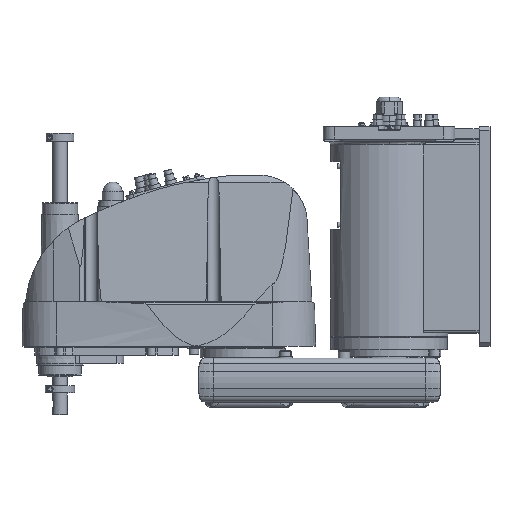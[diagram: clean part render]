
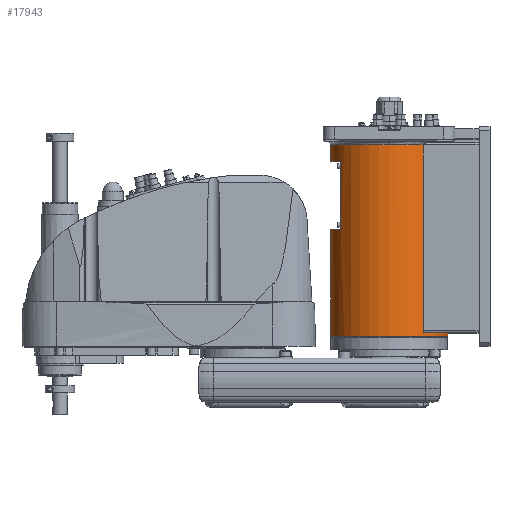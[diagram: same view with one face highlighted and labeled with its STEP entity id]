
A CAD part, top view. The second image highlights one B-rep face of the part: STEP entity #17943.
In plain terms, the highlighted cylindrical face has radius 80 mm (diameter 160 mm), a partial arc.
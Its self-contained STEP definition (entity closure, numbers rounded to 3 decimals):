
#8871 = VERTEX_POINT( '', #25531 );
#9305 = VERTEX_POINT( '', #26011 );
#10139 = EDGE_CURVE( '', #17783, #16687, #26924, .T. );
#10681 = EDGE_CURVE( '', #18551, #9305, #27530, .T. );
#11325 = EDGE_CURVE( '', #18063, #21733, #28262, .T. );
#11709 = EDGE_CURVE( '', #16687, #19675, #28704, .T. );
#11987 = EDGE_CURVE( '', #16673, #23309, #29005, .T. );
#15599 = VERTEX_POINT( '', #33001 );
#16673 = VERTEX_POINT( '', #34199 );
#16687 = VERTEX_POINT( '', #34213 );
#17309 = EDGE_CURVE( '', #20251, #15599, #34897, .T. );
#17783 = VERTEX_POINT( '', #35424 );
#17883 = EDGE_CURVE( '', #23309, #18063, #35538, .T. );
#17943 = ADVANCED_FACE( '', ( #35604 ), #35605, .T. );
#18063 = VERTEX_POINT( '', #35748 );
#18089 = EDGE_CURVE( '', #18551, #20251, #35775, .T. );
#18117 = EDGE_CURVE( '', #21733, #8871, #35805, .T. );
#18551 = VERTEX_POINT( '', #36293 );
#19675 = VERTEX_POINT( '', #37584 );
#19685 = EDGE_CURVE( '', #9305, #17783, #37594, .T. );
#20251 = VERTEX_POINT( '', #38227 );
#20839 = EDGE_CURVE( '', #19675, #16673, #38887, .T. );
#21733 = VERTEX_POINT( '', #39897 );
#23309 = VERTEX_POINT( '', #41640 );
#24299 = EDGE_CURVE( '', #8871, #15599, #42740, .T. );
#25531 = CARTESIAN_POINT( '', ( 46.637, 37.5, 65. ) );
#26011 = CARTESIAN_POINT( '', ( -80., 269., 0. ) );
#26924 = LINE( '', #46496, #46497 );
#27530 = LINE( '', #47467, #47468 );
#28262 = CIRCLE( '', #48575, 80. );
#28704 = CIRCLE( '', #49199, 80. );
#29005 = CIRCLE( '', #49680, 80. );
#33001 = CARTESIAN_POINT( '', ( 46.637, 291.5, 65. ) );
#34199 = CARTESIAN_POINT( '', ( -80., 30., 0. ) );
#34213 = CARTESIAN_POINT( '', ( -66., 176., 45.211 ) );
#34897 = CIRCLE( '', #59016, 80. );
#35424 = CARTESIAN_POINT( '', ( -66., 269., 45.211 ) );
#35538 = LINE( '', #60084, #60085 );
#35604 = FACE_OUTER_BOUND( '', #60185, .T. );
#35605 = CYLINDRICAL_SURFACE( '', #60186, 80. );
#35748 = CARTESIAN_POINT( '', ( 80., 34.5, 0. ) );
#35775 = CIRCLE( '', #60493, 80. );
#35805 = B_SPLINE_CURVE_WITH_KNOTS( '', 3, ( #60544, #60545, #60546, #60547, #60548, #60549, #60550, #60551, #60552, #60553, #60554, #60555, #60556, #60557, #60558, #60559 ), .UNSPECIFIED., .F., .F., ( 4, 2, 2, 2, 2, 2, 2, 4 ), ( -6.06, -5.11, -4.16, -2.26, -1.695, -1.13, -0.565, 0. ), .UNSPECIFIED. );
#36293 = CARTESIAN_POINT( '', ( -80., 291.5, 0. ) );
#37584 = CARTESIAN_POINT( '', ( -80., 176., 0. ) );
#37594 = CIRCLE( '', #63085, 80. );
#38227 = CARTESIAN_POINT( '', ( 0., 291.5, 80. ) );
#38887 = LINE( '', #65137, #65138 );
#39897 = CARTESIAN_POINT( '', ( 50.557, 34.5, 62. ) );
#41640 = CARTESIAN_POINT( '', ( 80., 30., 0. ) );
#42740 = LINE( '', #71064, #71065 );
#46496 = CARTESIAN_POINT( '', ( -66., 222.5, 45.211 ) );
#46497 = VECTOR( '', #74201, 1. );
#47467 = CARTESIAN_POINT( '', ( -80., 160.75, 0. ) );
#47468 = VECTOR( '', #74898, 1. );
#48575 = AXIS2_PLACEMENT_3D( '', #75835, #75836, #75837 );
#49199 = AXIS2_PLACEMENT_3D( '', #76408, #76409, #76410 );
#49680 = AXIS2_PLACEMENT_3D( '', #76734, #76735, #76736 );
#59016 = AXIS2_PLACEMENT_3D( '', #83321, #83322, #83323 );
#60084 = CARTESIAN_POINT( '', ( 80., 160.75, 0. ) );
#60085 = VECTOR( '', #84086, 1. );
#60185 = EDGE_LOOP( '', ( #84141, #84142, #84143, #84144, #84145, #84146, #84147, #84148, #84149, #84150, #84151, #84152 ) );
#60186 = AXIS2_PLACEMENT_3D( '', #84153, #84154, #84155 );
#60493 = AXIS2_PLACEMENT_3D( '', #84320, #84321, #84322 );
#60544 = CARTESIAN_POINT( '', ( 50.557, 34.5, 62. ) );
#60545 = CARTESIAN_POINT( '', ( 50.312, 34.5, 62.2 ) );
#60546 = CARTESIAN_POINT( '', ( 50.054, 34.52, 62.407 ) );
#60547 = CARTESIAN_POINT( '', ( 49.533, 34.607, 62.822 ) );
#60548 = CARTESIAN_POINT( '', ( 49.269, 34.674, 63.029 ) );
#60549 = CARTESIAN_POINT( '', ( 48.491, 34.945, 63.632 ) );
#60550 = CARTESIAN_POINT( '', ( 47.991, 35.221, 64.009 ) );
#60551 = CARTESIAN_POINT( '', ( 47.455, 35.701, 64.405 ) );
#60552 = CARTESIAN_POINT( '', ( 47.333, 35.827, 64.495 ) );
#60553 = CARTESIAN_POINT( '', ( 47.106, 36.105, 64.661 ) );
#60554 = CARTESIAN_POINT( '', ( 47.002, 36.258, 64.736 ) );
#60555 = CARTESIAN_POINT( '', ( 46.828, 36.585, 64.863 ) );
#60556 = CARTESIAN_POINT( '', ( 46.758, 36.761, 64.913 ) );
#60557 = CARTESIAN_POINT( '', ( 46.662, 37.124, 64.982 ) );
#60558 = CARTESIAN_POINT( '', ( 46.637, 37.312, 65. ) );
#60559 = CARTESIAN_POINT( '', ( 46.637, 37.5, 65. ) );
#63085 = AXIS2_PLACEMENT_3D( '', #86575, #86576, #86577 );
#65137 = CARTESIAN_POINT( '', ( -80., 160.75, 0. ) );
#65138 = VECTOR( '', #88097, 1. );
#71064 = CARTESIAN_POINT( '', ( 46.637, 164.5, 65. ) );
#71065 = VECTOR( '', #92484, 1. );
#74201 = DIRECTION( '', ( 0., -1., 0. ) );
#74898 = DIRECTION( '', ( 0., -1., 0. ) );
#75835 = CARTESIAN_POINT( '', ( 0., 34.5, 0. ) );
#75836 = DIRECTION( '', ( 0., -1., 0. ) );
#75837 = DIRECTION( '', ( 1., 0., 0. ) );
#76408 = CARTESIAN_POINT( '', ( 0., 176., 0. ) );
#76409 = DIRECTION( '', ( 0., -1., 0. ) );
#76410 = DIRECTION( '', ( 1., 0., 0. ) );
#76734 = CARTESIAN_POINT( '', ( 0., 30., 0. ) );
#76735 = DIRECTION( '', ( 0., 1., 0. ) );
#76736 = DIRECTION( '', ( 1., 0., 0. ) );
#83321 = CARTESIAN_POINT( '', ( 0., 291.5, 0. ) );
#83322 = DIRECTION( '', ( 0., 1., 0. ) );
#83323 = DIRECTION( '', ( 1., 0., 0. ) );
#84086 = DIRECTION( '', ( 0., 1., 0. ) );
#84141 = ORIENTED_EDGE( '', *, *, #17883, .T. );
#84142 = ORIENTED_EDGE( '', *, *, #11325, .T. );
#84143 = ORIENTED_EDGE( '', *, *, #18117, .T. );
#84144 = ORIENTED_EDGE( '', *, *, #24299, .T. );
#84145 = ORIENTED_EDGE( '', *, *, #17309, .F. );
#84146 = ORIENTED_EDGE( '', *, *, #18089, .F. );
#84147 = ORIENTED_EDGE( '', *, *, #10681, .T. );
#84148 = ORIENTED_EDGE( '', *, *, #19685, .T. );
#84149 = ORIENTED_EDGE( '', *, *, #10139, .T. );
#84150 = ORIENTED_EDGE( '', *, *, #11709, .T. );
#84151 = ORIENTED_EDGE( '', *, *, #20839, .T. );
#84152 = ORIENTED_EDGE( '', *, *, #11987, .T. );
#84153 = CARTESIAN_POINT( '', ( 0., 160.75, 0. ) );
#84154 = DIRECTION( '', ( 0., -1., 0. ) );
#84155 = DIRECTION( '', ( 1., 0., 0. ) );
#84320 = CARTESIAN_POINT( '', ( 0., 291.5, 0. ) );
#84321 = DIRECTION( '', ( 0., 1., 0. ) );
#84322 = DIRECTION( '', ( 1., 0., 0. ) );
#86575 = CARTESIAN_POINT( '', ( 0., 269., 0. ) );
#86576 = DIRECTION( '', ( 0., 1., 0. ) );
#86577 = DIRECTION( '', ( 1., 0., 0. ) );
#88097 = DIRECTION( '', ( 0., -1., 0. ) );
#92484 = DIRECTION( '', ( 0., 1., 0. ) );
